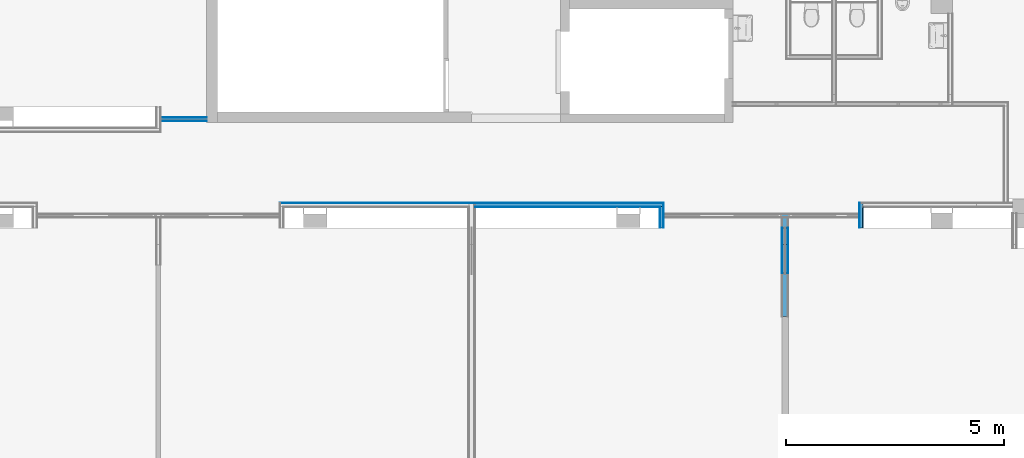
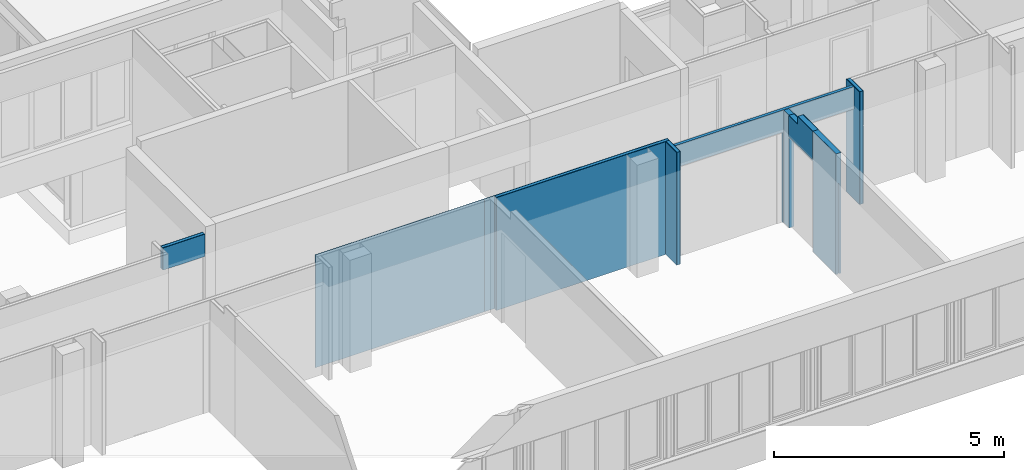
# One storey, part 59 of 99: 18 building element parts, 4 openings, 8 elements without a shape of their own.
"""IFC2X3 building model written with IfcOpenShell, lengths in millimetres."""

from ifc_helpers import new_model, entity, si_unit, converted_unit, derived_unit, money_unit, direction, frame, origin_with_axes, place, context, subcontext, project, spatial, faceted_brep, material, type_object, element, aggregate, save


model = new_model("IFC2X3")

# Units and contexts
model_context = context("Model", 3, precision=0.01, world=origin_with_axes(), true_north=direction((0.0, 1.0)))
body_context = subcontext(model_context, "Body", "Model", "MODEL_VIEW")
ifc_project = project(units=[si_unit("LENGTHUNIT", "METRE", prefix="MILLI"), si_unit("AREAUNIT", "SQUARE_METRE"), si_unit("VOLUMEUNIT", "CUBIC_METRE"), converted_unit("PLANEANGLEUNIT", "DEGREE", entity("IfcPlaneAngleMeasure", 0.0174532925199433), si_unit("PLANEANGLEUNIT", "RADIAN"), dimensions=[0, 0, 0, 0, 0, 0, 0]), money_unit("EUR"), converted_unit("TIMEUNIT", "Year", entity("IfcTimeMeasure", 31557600.0), si_unit("TIMEUNIT", "SECOND"), dimensions=[0, 0, 1, 0, 0, 0, 0]), si_unit("MASSUNIT", "GRAM", prefix="KILO"), si_unit("THERMODYNAMICTEMPERATUREUNIT", "DEGREE_CELSIUS"), si_unit("LUMINOUSINTENSITYUNIT", "LUMEN"), si_unit("ENERGYUNIT", "JOULE", prefix="MEGA"), derived_unit("THERMALCONDUCTANCEUNIT", [(si_unit("POWERUNIT", "WATT"), 1), (si_unit("LENGTHUNIT", "METRE"), -1), (si_unit("THERMODYNAMICTEMPERATUREUNIT", "KELVIN"), -1)]), derived_unit("SPECIFICHEATCAPACITYUNIT", [(si_unit("ENERGYUNIT", "JOULE"), 1), (si_unit("MASSUNIT", "GRAM", prefix="KILO"), -1), (si_unit("THERMODYNAMICTEMPERATUREUNIT", "KELVIN"), -1)]), derived_unit("MASSDENSITYUNIT", [(si_unit("MASSUNIT", "GRAM", prefix="KILO"), 1), (si_unit("VOLUMEUNIT", "CUBIC_METRE"), -1)])], contexts=[model_context])

# Site, building, storey
site_placement = place(None, origin_with_axes())
site = spatial("IfcSite", under=ifc_project, at=site_placement, Name="Site", CompositionType="ELEMENT")
building_placement = place(site_placement, origin_with_axes())
building = spatial("IfcBuilding", under=site, at=building_placement, Name="Naam gebouw", CompositionType="ELEMENT")
storey_placement = place(building_placement, frame((0.0, 0.0, 7650.0), z_axis=(0.0, 0.0, 1.0), x_axis=(1.0, 0.0, 0.0)))
storey = spatial("IfcBuildingStorey", under=building, at=storey_placement, Name="2e verdieping N", CompositionType="ELEMENT", Elevation=7650.0)

# Wall, building element parts
wall_type_1 = type_object("IfcWallType", Name="Metalstud iso 150 150", PredefinedType="NOTDEFINED")
wall_1_placement = place(storey_placement, frame((25200.0, 10330.91242510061, 2440.0), z_axis=(0.0, 0.0, 1.0), x_axis=(0.0, -1.0, 0.0)))
wall_1 = element("IfcWall", 1, at=wall_1_placement, inside=storey, type_object=wall_type_1, Name="_Wand-x")
ifc_material_1 = material(Name="Isolatie - Steenwol LSW")
building_element_part_1_placement = place(wall_1_placement, origin_with_axes())
building_element_part_1 = element("IfcBuildingElementPart", 2, at=building_element_part_1_placement, material=ifc_material_1, Name="Isolatie - Steenwol LSW", context=body_context, shape_type="Brep", body=[
    faceted_brep([(0.0, -62.5, 549.9999999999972), (0.0, 62.5, 549.9999999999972), (0.0, 62.5, 0.0), (0.0, -62.5, 0.0), (384.9999999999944, 62.5, 549.9999999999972), (384.9999999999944, -62.5, 549.9999999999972), (384.9999999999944, 62.5, 759.999999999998), (1040.000000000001, 62.5, 760.0000000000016), (1040.000000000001, 62.5, 0.0), (1040.000000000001, -62.5, 0.0), (1040.000000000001, -62.5, 760.0000000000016), (384.9999999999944, -62.5, 759.999999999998)], [[[0, 1, 2, 3]], [[4, 1, 0, 5]], [[4, 6, 7, 8, 2, 1]], [[2, 8, 9, 3]], [[5, 0, 3, 9, 10, 11]], [[11, 6, 4, 5]], [[6, 11, 10, 7]], [[7, 10, 9, 8]]]),
])
ifc_material_2 = material(Name="Gipsplaat")
building_element_part_2_placement = place(wall_1_placement, origin_with_axes())
building_element_part_2 = element("IfcBuildingElementPart", 3, at=building_element_part_2_placement, material=ifc_material_2, Name="Gipsplaat", context=body_context, shape_type="Brep", body=[
    faceted_brep([(0.0, -74.99999999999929, 549.9999999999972), (0.0, -62.5, 549.9999999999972), (0.0, -62.5, 0.0), (0.0, -74.99999999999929, 0.0), (384.9999999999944, -62.5, 549.9999999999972), (384.9999999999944, -74.99999999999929, 549.9999999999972), (384.9999999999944, -62.5, 759.999999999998), (1040.000000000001, -62.5, 760.0000000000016), (1040.000000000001, -62.5, 0.0), (1040.000000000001, -74.99999999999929, 0.0), (1040.000000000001, -74.99999999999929, 760.0000000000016), (384.9999999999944, -74.99999999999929, 759.999999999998)], [[[0, 1, 2, 3]], [[4, 1, 0, 5]], [[4, 6, 7, 8, 2, 1]], [[2, 8, 9, 3]], [[5, 0, 3, 9, 10, 11]], [[11, 6, 4, 5]], [[6, 11, 10, 7]], [[7, 10, 9, 8]]]),
])
building_element_part_3_placement = place(wall_1_placement, origin_with_axes())
building_element_part_3 = element("IfcBuildingElementPart", 4, at=building_element_part_3_placement, material=ifc_material_2, Name="Gipsplaat", context=body_context, shape_type="Brep", body=[
    faceted_brep([(0.0, 62.5, 549.9999999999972), (0.0, 74.99999999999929, 549.9999999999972), (0.0, 74.99999999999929, 0.0), (0.0, 62.5, 0.0), (384.9999999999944, 74.99999999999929, 549.9999999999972), (384.9999999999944, 62.5, 549.9999999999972), (384.9999999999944, 74.99999999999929, 759.999999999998), (1040.000000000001, 74.99999999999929, 760.0000000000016), (1040.000000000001, 74.99999999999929, 0.0), (1040.000000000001, 62.5, 0.0), (1040.000000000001, 62.5, 760.0000000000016), (384.9999999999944, 62.5, 759.999999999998)], [[[0, 1, 2, 3]], [[4, 1, 0, 5]], [[4, 6, 7, 8, 2, 1]], [[2, 8, 9, 3]], [[5, 0, 3, 9, 10, 11]], [[11, 6, 4, 5]], [[6, 11, 10, 7]], [[7, 10, 9, 8]]]),
])
aggregate(wall_1, [building_element_part_1, building_element_part_2, building_element_part_3])

wall_type_2 = type_object("IfcWallType", Name="Metalstud iso 100 100", PredefinedType="NOTDEFINED")
wall_2_placement = place(storey_placement, frame((27000.0, 10805.91242510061, 0.0), z_axis=(0.0, 0.0, 1.0), x_axis=(0.0, -1.0, 0.0)))
wall_2 = element("IfcWall", 5, at=wall_2_placement, inside=storey, type_object=wall_type_2, Name="_Wand-x")
building_element_part_4_placement = place(wall_2_placement, origin_with_axes())
building_element_part_4 = element("IfcBuildingElementPart", 6, at=building_element_part_4_placement, material=ifc_material_2, Name="Gipsplaat", context=body_context, shape_type="Brep", body=[
    faceted_brep([(25.00002620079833, 0.0, 2049.999999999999), (475.0000233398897, 0.0, 2049.999999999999), (475.0000000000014, 0.0, 0.0), (-12.50000000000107, 0.0, 0.0), (-12.50000000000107, 0.0, 2159.999999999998), (-12.50000000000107, 0.0, 2989.999999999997), (475.0000000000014, 0.0, 2989.999999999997), (475.0000233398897, 0.0, 2069.999999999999), (25.00002620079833, 0.0, 2069.999999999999), (25.00002620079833, -12.49999999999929, 2049.999999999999), (475.0000233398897, -12.49999999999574, 2049.999999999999), (475.0000000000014, -12.49999999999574, 0.0), (-12.50000000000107, -12.50000000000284, 0.0), (-12.50000000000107, -12.49999999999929, 2989.999999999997), (-12.50000000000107, -12.50000000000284, 2159.999999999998), (475.0000000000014, -12.49999999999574, 2989.999999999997), (475.0000233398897, -12.49999999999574, 2069.999999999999), (25.00002620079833, -12.49999999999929, 2069.999999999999)], [[[0, 1, 2, 3, 4, 5, 6, 7, 8]], [[1, 0, 9, 10]], [[1, 10, 11, 2]], [[11, 12, 3, 2]], [[13, 5, 4, 3, 12, 14]], [[6, 5, 13, 15]], [[16, 7, 6, 15]], [[8, 7, 16, 17]], [[0, 8, 17, 9]], [[17, 16, 15, 13, 14, 12, 11, 10, 9]]]),
])
building_element_part_5_placement = place(wall_2_placement, origin_with_axes())
building_element_part_5 = element("IfcBuildingElementPart", 7, at=building_element_part_5_placement, material=ifc_material_1, Name="Isolatie - Steenwol LSW", context=body_context, shape_type="Brep", body=[
    faceted_brep([(25.00002620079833, -12.50000000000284, 2049.999999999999), (475.0000233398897, -12.49999999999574, 2049.999999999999), (475.0000000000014, -12.49999999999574, 0.0), (-87.50000000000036, -12.50000000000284, 0.0), (-87.50000000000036, -12.50000000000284, 2159.999999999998), (-87.50000000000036, -12.49999999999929, 2989.999999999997), (475.0000000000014, -12.49999999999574, 2989.999999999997), (475.0000233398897, -12.49999999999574, 2069.999999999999), (25.00002620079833, -12.50000000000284, 2069.999999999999), (25.00002620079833, -14.99999999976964, 2049.999999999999), (475.0000233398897, -14.99999999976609, 2049.999999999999), (475.0000233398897, -14.99999999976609, 2069.999999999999), (475.0000000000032, -87.49999999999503, 2989.999999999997), (475.0000000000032, -87.49999999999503, 0.0), (-87.49999999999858, -87.50000000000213, 0.0), (-87.49999999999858, -87.49999999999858, 2989.999999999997), (-87.49999999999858, -87.50000000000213, 2159.999999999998), (25.00002620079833, -14.99999999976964, 2069.999999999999)], [[[0, 1, 2, 3, 4, 5, 6, 7, 8]], [[1, 0, 9, 10]], [[11, 7, 6, 12, 13, 2, 1, 10]], [[13, 14, 3, 2]], [[15, 5, 4, 3, 14, 16]], [[6, 5, 15, 12]], [[8, 7, 11, 17]], [[0, 8, 17, 9]], [[11, 10, 9, 17]], [[12, 15, 16, 14, 13]]]),
])
building_element_part_6_placement = place(wall_2_placement, origin_with_axes())
building_element_part_6 = element("IfcBuildingElementPart", 8, at=building_element_part_6_placement, material=ifc_material_2, Name="Gipsplaat", context=body_context, shape_type="Brep", body=[
    faceted_brep([(-99.99999642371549, -100.0000014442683, 2989.999999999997), (-99.99999689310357, -87.49999999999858, 2989.999999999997), (-100.000003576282, -87.49999999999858, 0.0), (-100.000003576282, -100.0000071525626, 0.0), (-99.99999642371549, -100.0000071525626, 2159.999999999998), (475.0000000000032, -87.49999999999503, 2989.999999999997), (475.0000000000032, -99.99999999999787, 2989.999999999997), (475.0000000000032, -87.49999999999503, 0.0), (475.0000000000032, -99.99999999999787, 0.0)], [[[0, 1, 2, 3, 4]], [[5, 1, 0, 6]], [[1, 5, 7, 2]], [[7, 8, 3, 2]], [[6, 0, 4, 3, 8]], [[5, 6, 8, 7]]]),
])
aggregate(wall_2, [building_element_part_4, building_element_part_5, building_element_part_6])

wall_3_placement = place(storey_placement, frame((22315.0, 10330.91242510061, 0.0), z_axis=(0.0, 0.0, 1.0), x_axis=(0.0, 1.0, 0.0)))
wall_3 = element("IfcWall", 9, at=wall_3_placement, inside=storey, type_object=wall_type_2, Name="_Wand-x")
building_element_part_7_placement = place(wall_3_placement, origin_with_axes())
building_element_part_7 = element("IfcBuildingElementPart", 10, at=building_element_part_7_placement, material=ifc_material_2, Name="Gipsplaat", context=body_context, shape_type="Brep", body=[
    faceted_brep([(474.9999999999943, 0.0, 2989.999999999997), (474.9999999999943, -12.49999999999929, 2989.999999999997), (474.9999999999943, -12.49999999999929, 0.0), (474.9999999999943, 0.0, 0.0), (0.0, -12.49999999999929, 2989.999999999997), (0.0, 0.0, 2989.999999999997), (0.0, -12.49999999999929, 0.0), (0.0, 0.0, 0.0)], [[[0, 1, 2, 3]], [[4, 1, 0, 5]], [[1, 4, 6, 2]], [[3, 2, 6, 7]], [[5, 0, 3, 7]], [[4, 5, 7, 6]]]),
])
building_element_part_8_placement = place(wall_3_placement, origin_with_axes())
building_element_part_8 = element("IfcBuildingElementPart", 11, at=building_element_part_8_placement, material=ifc_material_1, Name="Isolatie - Steenwol LSW", context=body_context, shape_type="Brep", body=[
    faceted_brep([(487.4999999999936, -12.49999999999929, 2989.999999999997), (487.4999999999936, -87.49999999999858, 2989.999999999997), (487.4999999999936, -87.49999999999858, 0.0), (487.4999999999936, -12.49999999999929, 0.0), (0.0, -87.49999999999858, 2989.999999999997), (0.0, -12.49999999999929, 2989.999999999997), (0.0, -87.49999999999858, 0.0), (0.0, -12.49999999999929, 0.0)], [[[0, 1, 2, 3]], [[4, 1, 0, 5]], [[1, 4, 6, 2]], [[3, 2, 6, 7]], [[5, 0, 3, 7]], [[4, 5, 7, 6]]]),
])
building_element_part_9_placement = place(wall_3_placement, origin_with_axes())
building_element_part_9 = element("IfcBuildingElementPart", 12, at=building_element_part_9_placement, material=ifc_material_2, Name="Gipsplaat", context=body_context, shape_type="Brep", body=[
    faceted_brep([(562.4999999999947, -87.49999999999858, 2989.999999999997), (562.4999999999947, -100.0000000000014, 2989.999999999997), (562.4999999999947, -100.0000000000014, 0.0), (562.4999999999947, -87.49999999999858, 0.0), (0.0, -100.0000000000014, 2989.999999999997), (0.0, -87.49999999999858, 2989.999999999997), (0.0, -100.0000000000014, 0.0), (0.0, -87.49999999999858, 0.0)], [[[0, 1, 2, 3]], [[4, 1, 0, 5]], [[1, 4, 6, 2]], [[3, 2, 6, 7]], [[5, 0, 3, 7]], [[4, 5, 7, 6]]]),
])
aggregate(wall_3, [building_element_part_7, building_element_part_8, building_element_part_9])

# Wall, opening, building element part
wall_4_placement = place(storey_placement, frame((25200.0, 10655.91242510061, 0.0), z_axis=(0.0, 0.0, 1.0), x_axis=(0.0, -1.0, 0.0)))
wall_4 = element("IfcWall", 13, at=wall_4_placement, inside=storey, type_object=wall_type_1, Name="_Wand-x")
opening_1_placement = place(wall_4_placement, frame((844.9999999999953, 0.0, 0.0), z_axis=(0.0, 0.0, 1.0), x_axis=(1.0, 0.0, 0.0)))
element("IfcOpeningElement", 14, at=opening_1_placement, cuts=wall_4, Name="_Merk-x", context=body_context, shape_type="Brep", body=[
    faceted_brep([(520.0000000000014, -9.99999999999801, 2400.0), (520.0000000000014, 10.00000000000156, 2400.0), (520.0000000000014, 76.00000000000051, 2400.0), (-520.0000000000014, 76.00000000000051, 2400.0), (-520.0000000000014, -9.99999999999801, 2400.0), (-520.0000000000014, -76.00000000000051, 2400.0), (520.0000000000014, -76.00000000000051, 2400.0), (1565.000000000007, -9.99999999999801, 2400.0), (1565.000000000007, 10.00000000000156, 2400.0), (520.0000000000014, 10.00000000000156, 0.0), (520.0000000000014, 76.00000000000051, 0.0), (-520.0000000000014, 76.00000000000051, 0.0), (-520.0000000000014, -9.99999999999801, 0.0), (-520.0000000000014, -76.00000000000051, 0.0), (520.0000000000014, -76.00000000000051, 0.0), (520.0000000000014, -9.99999999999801, 0.0), (1565.000000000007, -9.99999999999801, 0.0), (1565.000000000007, 10.00000000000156, 0.0)], [[[0, 1, 2, 3, 4, 5, 6]], [[1, 0, 7, 8]], [[1, 9, 10, 2]], [[2, 10, 11, 3]], [[12, 4, 3, 11]], [[4, 12, 13, 5]], [[5, 13, 14, 6]], [[15, 0, 6, 14]], [[0, 15, 16, 7]], [[17, 8, 7, 16]], [[9, 1, 8, 17]], [[9, 15, 14, 13, 12, 11, 10]], [[15, 9, 17, 16]]]),
])
building_element_part_10_placement = place(wall_4_placement, origin_with_axes())
building_element_part_10 = element("IfcBuildingElementPart", 15, at=building_element_part_10_placement, material=ifc_material_1, Name="Isolatie - Steenwol LSW", context=body_context, shape_type="Brep", body=[
    faceted_brep([(1364.999999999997, 10.00000000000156, 0.0), (1364.999999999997, 10.00000000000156, 2400.0), (1364.999999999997, 62.5, 2400.0), (1364.999999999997, 62.5, 0.0), (2364.999996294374, 10.00000000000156, 0.0), (2364.999996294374, 10.00000000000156, 2400.0), (1364.999999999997, -9.99999999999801, 2400.0), (1364.999999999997, -62.5, 2400.0), (324.999999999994, -62.5, 2400.0), (324.999999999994, 62.5, 2400.0), (709.9999999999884, 62.5, 3199.999999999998), (2364.999996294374, 62.5, 3200.000000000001), (2364.999996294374, 62.5, 0.0), (324.999999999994, 62.5, 0.0), (99.99999999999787, 62.5, 0.0), (99.99999999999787, 62.5, 2989.999999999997), (709.9999999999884, 62.5, 2989.999999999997), (2364.999996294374, -62.5, 3200.000000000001), (2364.999996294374, -62.5, 0.0), (2364.999996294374, -9.99999999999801, 0.0), (2364.999996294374, -9.99999999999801, 2400.0), (1364.999999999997, -9.99999999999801, 0.0), (1364.999999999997, -62.5, 0.0), (709.9999999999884, -62.5, 3199.999999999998), (709.9999999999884, -62.5, 2989.999999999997), (99.99999999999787, -62.5, 2989.999999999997), (99.99999999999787, -62.5, 0.0), (324.999999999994, -62.5, 0.0)], [[[0, 1, 2, 3]], [[1, 0, 4, 5]], [[1, 6, 7, 8, 9, 2]], [[10, 11, 12, 3, 2, 9, 13, 14, 15, 16]], [[4, 0, 3, 12]], [[5, 4, 12, 11, 17, 18, 19, 20]], [[6, 1, 5, 20]], [[6, 21, 22, 7]], [[23, 24, 25, 26, 27, 8, 7, 22, 18, 17]], [[9, 8, 27, 13]], [[11, 10, 23, 17]], [[27, 26, 14, 13]], [[26, 25, 15, 14]], [[24, 16, 15, 25]], [[24, 23, 10, 16]], [[21, 19, 18, 22]], [[21, 6, 20, 19]]]),
])
aggregate(wall_4, [building_element_part_10])

# Wall, openings, building element part
wall_5_placement = place(storey_placement, frame((22415.00000000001, 10605.91242510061, 0.0), z_axis=(0.0, 0.0, 1.0), x_axis=(1.0, 0.0, 0.0)))
wall_5 = element("IfcWall", 16, at=wall_5_placement, inside=storey, type_object=wall_type_2, Name="_Wand-x")
opening_2_placement = place(wall_5_placement, frame((3672.499999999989, 0.0, 0.0), z_axis=(0.0, 0.0, 1.0), x_axis=(1.0, 0.0, 0.0)))
element("IfcOpeningElement", 17, at=opening_2_placement, cuts=wall_5, Name="_Merk-x", context=body_context, shape_type="Brep", body=[
    faceted_brep([(-812.5, 9.999999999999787, 0.0), (-812.5, 9.999999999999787, 2400.0), (-812.5, 51.00000000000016, 2400.0), (-812.5, 51.00000000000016, 0.0), (-812.5, -51.00000000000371, 0.0), (-812.5, -51.00000000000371, 2400.0), (812.5, 9.999999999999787, 2400.0), (812.5, 51.00000000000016, 2400.0), (812.5, -51.00000000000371, 2400.0), (812.5, 51.00000000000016, 0.0), (812.5, 9.99999999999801, 0.0), (812.5, -51.00000000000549, 0.0)], [[[0, 1, 2, 3]], [[1, 0, 4, 5]], [[6, 7, 2, 1, 5, 8]], [[7, 9, 3, 2]], [[0, 3, 9, 10, 11, 4]], [[5, 4, 11, 8]], [[6, 10, 9, 7]], [[10, 6, 8, 11]]]),
])
opening_3_placement = place(wall_5_placement, frame((1354.999999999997, 0.0, 0.0), z_axis=(0.0, 0.0, 1.0), x_axis=(1.0, 0.0, 0.0)))
element("IfcOpeningElement", 18, at=opening_3_placement, cuts=wall_5, Name="_Merk-x", context=body_context, shape_type="Brep", body=[
    faceted_brep([(-1354.999999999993, 9.999999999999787, 0.0), (-1354.999999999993, 9.999999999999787, 2400.0), (-1354.999999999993, 51.00000000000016, 2400.0), (-1354.999999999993, 51.00000000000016, 0.0), (-1354.999999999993, -51.00000000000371, 0.0), (-1354.999999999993, -51.00000000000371, 2400.0), (1354.999999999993, 9.999999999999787, 2400.0), (1354.999999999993, 51.00000000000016, 2400.0), (1354.999999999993, -51.00000000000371, 2400.0), (1354.999999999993, 51.00000000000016, 0.0), (1354.999999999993, 9.99999999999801, 0.0), (1354.999999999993, -51.00000000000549, 0.0)], [[[0, 1, 2, 3]], [[1, 0, 4, 5]], [[6, 7, 2, 1, 5, 8]], [[7, 9, 3, 2]], [[0, 3, 9, 10, 11, 4]], [[5, 4, 11, 8]], [[6, 10, 9, 7]], [[10, 6, 8, 11]]]),
])
building_element_part_11_placement = place(wall_5_placement, origin_with_axes())
building_element_part_11 = element("IfcBuildingElementPart", 19, at=building_element_part_11_placement, material=ifc_material_1, Name="Isolatie - Steenwol LSW", context=body_context, shape_type="Brep", body=[
    faceted_brep([(2709.99999999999, 9.99999999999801, 0.0), (2709.99999999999, -37.49999999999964, 0.0), (2709.99999999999, -37.49999999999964, 2400.0), (2709.99999999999, 37.49999999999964, 2400.0), (2709.99999999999, 37.49999999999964, 0.0), (2859.999999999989, 37.49999999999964, 0.0), (2859.999999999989, -37.49999999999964, 0.0), (2859.999999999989, -37.49999999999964, 2400.0), (4484.999999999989, -37.49999999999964, 2400.0), (4484.999999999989, -37.49999999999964, 2989.999999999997), (0.0, -37.49999999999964, 2989.999999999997), (0.0, -37.49999999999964, 2400.0), (0.0, 9.999999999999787, 2400.0), (0.0, 37.49999999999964, 2400.0), (2859.999999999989, 37.49999999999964, 2400.0), (0.0, 37.49999999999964, 2989.999999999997), (4484.999999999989, 37.49999999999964, 2989.999999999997), (4484.999999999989, 37.49999999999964, 2400.0)], [[[0, 1, 2, 3, 4]], [[1, 0, 4, 5, 6]], [[2, 1, 6, 7, 8, 9, 10, 11]], [[3, 2, 11, 12, 13]], [[14, 5, 4, 3, 13, 15, 16, 17]], [[5, 14, 7, 6]], [[14, 17, 8, 7]], [[16, 9, 8, 17]], [[9, 16, 15, 10]], [[12, 11, 10, 15, 13]]]),
])
aggregate(wall_5, [building_element_part_11])

# Wall, building element part
wall_6_placement = place(storey_placement, frame((18000.0, 10805.91242510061, 0.0), z_axis=(0.0, 0.0, 1.0), x_axis=(-1.0, 0.0, 0.0)))
wall_6 = element("IfcWall", 20, at=wall_6_placement, inside=storey, type_object=wall_type_2, Name="_Wand-x")
building_element_part_12_placement = place(wall_6_placement, origin_with_axes())
building_element_part_12 = element("IfcBuildingElementPart", 21, at=building_element_part_12_placement, material=ifc_material_2, Name="Gipsplaat", context=body_context, shape_type="Brep", body=[
    faceted_brep([(4415.000000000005, -99.99999999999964, 2989.999999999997), (175.0000000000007, -99.99999999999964, 2989.999999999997), (175.0000000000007, -99.99999999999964, 0.0), (4415.000000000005, -99.99999999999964, 0.0), (175.0000000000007, -87.50000000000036, 2989.999999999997), (4415.000000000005, -87.50000000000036, 2989.999999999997), (175.0000000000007, -87.50000000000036, 0.0), (4415.000000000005, -87.50000000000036, 0.0)], [[[0, 1, 2, 3]], [[4, 1, 0, 5]], [[1, 4, 6, 2]], [[3, 2, 6, 7]], [[5, 0, 3, 7]], [[4, 5, 7, 6]]]),
])
aggregate(wall_6, [building_element_part_12])

# Wall, opening, building element parts
wall_7_placement = place(storey_placement, frame((10850.0, 12825.85635739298, 0.0), z_axis=(0.0, 0.0, 1.0), x_axis=(1.0, 0.0, 0.0)))
wall_7 = element("IfcWall", 22, at=wall_7_placement, inside=storey, type_object=wall_type_2, Name="_Wand-x")
opening_4_placement = place(wall_7_placement, frame((527.7502592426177, 0.0, 0.0), z_axis=(0.0, 0.0, 1.0), x_axis=(1.0, 0.0, 0.0)))
element("IfcOpeningElement", 23, at=opening_4_placement, cuts=wall_7, Name="_Merk-x", context=body_context, shape_type="Brep", body=[
    faceted_brep([(-527.7502592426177, 9.999999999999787, 0.0), (-527.7502592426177, 9.999999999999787, 2400.0), (-527.7502592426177, 51.00000000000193, 2400.0), (-527.7502592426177, 51.00000000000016, 0.0), (-527.7502592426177, -51.00000000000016, 0.0), (-527.7502592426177, -51.00000000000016, 2400.0), (527.7502592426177, 9.999999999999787, 2400.0), (527.7502592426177, 51.00000000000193, 2400.0), (527.7502592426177, -51.00000000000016, 2400.0), (527.7502592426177, 51.00000000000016, 0.0), (527.7502592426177, 9.999999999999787, 0.0), (527.7502592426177, -51.00000000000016, 0.0)], [[[0, 1, 2, 3]], [[1, 0, 4, 5]], [[6, 7, 2, 1, 5, 8]], [[7, 9, 3, 2]], [[0, 3, 9, 10, 11, 4]], [[5, 4, 11, 8]], [[6, 10, 9, 7]], [[10, 6, 8, 11]]]),
])
building_element_part_13_placement = place(wall_7_placement, origin_with_axes())
building_element_part_13 = element("IfcBuildingElementPart", 24, at=building_element_part_13_placement, material=ifc_material_2, Name="Gipsplaat", context=body_context, shape_type="Brep", body=[
    faceted_brep([(1055.500518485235, 37.49999999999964, 2400.0), (1055.500518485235, 50.00000000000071, 2400.0), (1055.500518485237, 50.00000000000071, 2989.999999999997), (1055.500518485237, 37.49999999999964, 2989.999999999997), (0.0, 50.00000000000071, 2400.0), (0.0, 37.49999999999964, 2400.0), (0.0, 50.00000000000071, 2989.999999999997), (0.0, 37.49999999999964, 2989.999999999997)], [[[0, 1, 2, 3]], [[4, 1, 0, 5]], [[1, 4, 6, 2]], [[2, 6, 7, 3]], [[5, 0, 3, 7]], [[4, 5, 7, 6]]]),
])
building_element_part_14_placement = place(wall_7_placement, origin_with_axes())
building_element_part_14 = element("IfcBuildingElementPart", 25, at=building_element_part_14_placement, material=ifc_material_1, Name="Isolatie - Steenwol LSW", context=body_context, shape_type="Brep", body=[
    faceted_brep([(1055.500518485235, -37.49999999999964, 2400.0), (1055.500518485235, 9.999999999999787, 2400.0), (1055.500518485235, 37.49999999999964, 2400.0), (1055.500518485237, 37.49999999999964, 2989.999999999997), (1055.500518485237, -37.49999999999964, 2989.999999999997), (0.0, -37.49999999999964, 2400.0), (0.0, 9.999999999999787, 2400.0), (0.0, 37.49999999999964, 2400.0), (0.0, 37.49999999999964, 2989.999999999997), (0.0, -37.49999999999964, 2989.999999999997)], [[[0, 1, 2, 3, 4]], [[1, 0, 5, 6, 7, 2]], [[7, 8, 3, 2]], [[8, 9, 4, 3]], [[5, 0, 4, 9]], [[6, 5, 9, 8, 7]]]),
])
building_element_part_15_placement = place(wall_7_placement, origin_with_axes())
building_element_part_15 = element("IfcBuildingElementPart", 26, at=building_element_part_15_placement, material=ifc_material_2, Name="Gipsplaat", context=body_context, shape_type="Brep", body=[
    faceted_brep([(1055.500518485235, -49.99999999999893, 2400.0), (1055.500518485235, -37.49999999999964, 2400.0), (1055.500518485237, -37.49999999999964, 2989.999999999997), (1055.500518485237, -49.99999999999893, 2989.999999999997), (0.0, -37.49999999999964, 2400.0), (0.0, -49.99999999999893, 2400.0), (0.0, -37.49999999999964, 2989.999999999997), (0.0, -49.99999999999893, 2989.999999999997)], [[[0, 1, 2, 3]], [[4, 1, 0, 5]], [[1, 4, 6, 2]], [[2, 6, 7, 3]], [[5, 0, 3, 7]], [[4, 5, 7, 6]]]),
])
aggregate(wall_7, [building_element_part_13, building_element_part_14, building_element_part_15])

# Wall, building element parts
wall_8_placement = place(storey_placement, frame((18000.0, 10805.91242510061, 0.0), z_axis=(0.0, 0.0, 1.0), x_axis=(1.0, 0.0, 0.0)))
wall_8 = element("IfcWall", 27, at=wall_8_placement, inside=storey, type_object=wall_type_2, Name="_Wand-x")
building_element_part_16_placement = place(wall_8_placement, origin_with_axes())
building_element_part_16 = element("IfcBuildingElementPart", 28, at=building_element_part_16_placement, material=ifc_material_2, Name="Gipsplaat", context=body_context, shape_type="Brep", body=[
    faceted_brep([(-175.0000000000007, 99.99999999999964, 2989.999999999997), (4415.000000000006, 99.99999999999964, 2989.999999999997), (4415.000000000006, 99.99999999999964, 0.0), (-175.0000000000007, 99.99999999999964, 0.0), (4415.000000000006, 87.50000000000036, 2989.999999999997), (-175.0000000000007, 87.50000000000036, 2989.999999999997), (4415.000000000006, 87.50000000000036, 0.0), (-175.0000000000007, 87.50000000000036, 0.0)], [[[0, 1, 2, 3]], [[4, 1, 0, 5]], [[1, 4, 6, 2]], [[6, 7, 3, 2]], [[5, 0, 3, 7]], [[4, 5, 7, 6]]]),
])
building_element_part_17_placement = place(wall_8_placement, origin_with_axes())
building_element_part_17 = element("IfcBuildingElementPart", 29, at=building_element_part_17_placement, material=ifc_material_1, Name="Isolatie - Steenwol LSW", context=body_context, shape_type="Brep", body=[
    faceted_brep([(74.99999999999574, 87.50000000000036, 2989.999999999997), (4402.500000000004, 87.50000000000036, 2989.999999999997), (4402.500000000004, 87.50000000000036, 0.0), (74.99999999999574, 87.50000000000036, 0.0), (4402.500000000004, 12.50000000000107, 2989.999999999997), (74.99999999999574, 12.49999999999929, 2989.999999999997), (4402.500000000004, 12.50000000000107, 0.0), (74.99999999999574, 12.50000000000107, 0.0)], [[[0, 1, 2, 3]], [[4, 1, 0, 5]], [[1, 4, 6, 2]], [[6, 7, 3, 2]], [[5, 0, 3, 7]], [[4, 5, 7, 6]]]),
])
building_element_part_18_placement = place(wall_8_placement, origin_with_axes())
building_element_part_18 = element("IfcBuildingElementPart", 30, at=building_element_part_18_placement, material=ifc_material_2, Name="Gipsplaat", context=body_context, shape_type="Brep", body=[
    faceted_brep([(74.99999999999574, 12.49999999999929, 2989.999999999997), (4327.500000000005, 12.50000000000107, 2989.999999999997), (4327.500000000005, 12.50000000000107, 0.0), (74.99999999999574, 12.49999999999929, 0.0), (4327.500000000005, 0.0, 2989.999999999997), (74.99999999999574, 0.0, 2989.999999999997), (4327.500000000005, 0.0, 0.0), (74.99999999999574, 0.0, 0.0)], [[[0, 1, 2, 3]], [[4, 1, 0, 5]], [[1, 4, 6, 2]], [[6, 7, 3, 2]], [[5, 0, 3, 7]], [[4, 5, 7, 6]]]),
])
aggregate(wall_8, [building_element_part_16, building_element_part_17, building_element_part_18])

save(model, "model.ifc")
